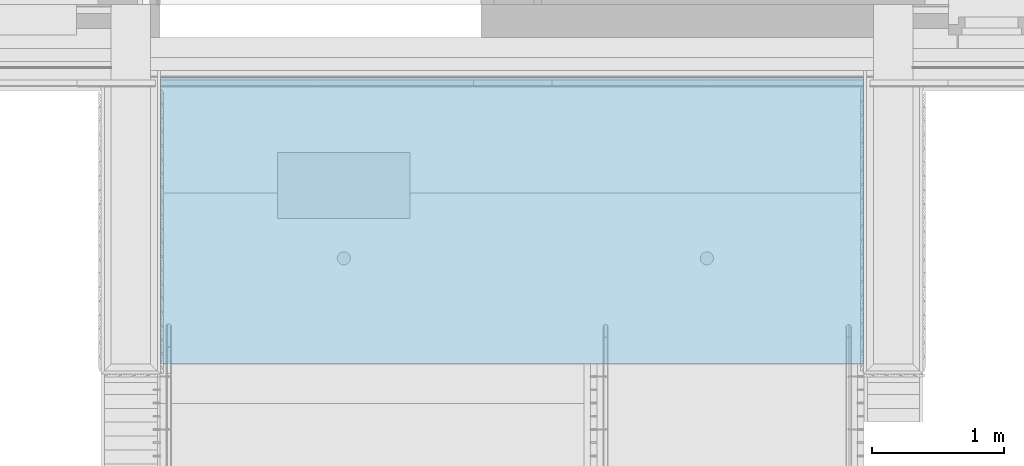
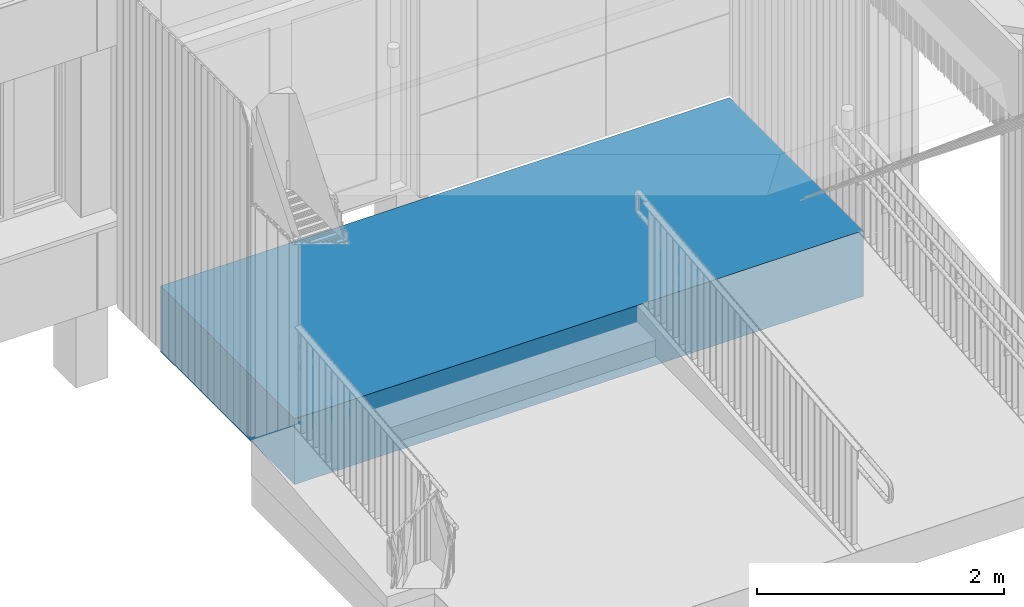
# One storey, part 91 of 418: 1 stair.
"""IFC2X3 building model written with IfcOpenShell, lengths in millimetres."""

from ifc_helpers import new_model, entity, si_unit, converted_unit, derived_unit, money_unit, direction, frame, origin_with_axes, place, context, subcontext, project, spatial, polyline, outline, extrude, boolean, faceted_brep, material, element, save


model = new_model("IFC2X3")

# Units and contexts
model_context = context("Model", 3, precision=0.01, world=origin_with_axes(), true_north=direction((0.0, 1.0)))
body_context = subcontext(model_context, "Body", "Model", "MODEL_VIEW")
ifc_project = project(units=[si_unit("LENGTHUNIT", "METRE", prefix="MILLI"), si_unit("AREAUNIT", "SQUARE_METRE"), si_unit("VOLUMEUNIT", "CUBIC_METRE"), converted_unit("PLANEANGLEUNIT", "DEGREE", entity("IfcPlaneAngleMeasure", 0.0174532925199), si_unit("PLANEANGLEUNIT", "RADIAN"), dimensions=[0, 0, 0, 0, 0, 0, 0]), si_unit("SOLIDANGLEUNIT", "STERADIAN"), money_unit("EUR"), converted_unit("TIMEUNIT", "Year", entity("IfcTimeMeasure", 31556926.0), si_unit("TIMEUNIT", "SECOND"), dimensions=[0, 0, 1, 0, 0, 0, 0]), si_unit("MASSUNIT", "GRAM", prefix="KILO"), si_unit("THERMODYNAMICTEMPERATUREUNIT", "DEGREE_CELSIUS"), si_unit("LUMINOUSINTENSITYUNIT", "LUMEN"), si_unit("ENERGYUNIT", "JOULE", prefix="MEGA"), derived_unit("THERMALCONDUCTANCEUNIT", [(si_unit("POWERUNIT", "WATT"), 1), (si_unit("LENGTHUNIT", "METRE"), -1), (si_unit("THERMODYNAMICTEMPERATUREUNIT", "KELVIN"), -1)]), derived_unit("SPECIFICHEATCAPACITYUNIT", [(si_unit("ENERGYUNIT", "JOULE"), 1), (si_unit("MASSUNIT", "GRAM", prefix="KILO"), -1), (si_unit("THERMODYNAMICTEMPERATUREUNIT", "KELVIN"), -1)]), derived_unit("MASSDENSITYUNIT", [(si_unit("MASSUNIT", "GRAM", prefix="KILO"), 1), (si_unit("VOLUMEUNIT", "CUBIC_METRE"), -1)])], contexts=[model_context])

# Site, building, storey
site_placement = place(None, origin_with_axes())
site = spatial("IfcSite", under=ifc_project, at=site_placement, Name="Paldiski mnt 245/1, Tallinn, Harjumaa", CompositionType="COMPLEX")
building_placement = place(site_placement, origin_with_axes())
building = spatial("IfcBuilding", under=site, at=building_placement, Name="RKAS Hoone üldnimetus (kasutust iseloomustav) -> IFC Project Manager -> SOLIBRI", CompositionType="ELEMENT")
storey_placement = place(building_placement, origin_with_axes())
storey = spatial("IfcBuildingStorey", under=building, at=storey_placement, Name="Esimene korrus", CompositionType="ELEMENT", Elevation=0.0)

# Stair
ifc_material = material(Name="KON-06_Raudbetoon - Konstruktsioon")
stair_placement = place(storey_placement, frame((-38794.9999919, -15230.0552573, -20.0), z_axis=(0.0, 0.0, 1.0), x_axis=(1.0, 0.0, 0.0)))
element("IfcStair", 1, at=stair_placement, inside=storey, material=ifc_material, Name="Välistrepp", ShapeType="NOTDEFINED", context=body_context, shape_type="CSG", body=[
    boolean("DIFFERENCE", extrude(outline(polyline([(0.0, 0.0), (-9.9175103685e-05, 2170.00579129), (-5320.00009808, 2170.00576056), (-5319.99999891, -3.07291294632e-05), (0.0, 0.0)])), frame((0.0, 0.0, -650.673864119), z_axis=(0.0, 0.0, 1.0), x_axis=(1.0, 0.0, 0.0)), (0.0, 0.0, 1.0), 650.673864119), faceted_brep([(-4433.12143578, 1099.97095625, 0.0), (-3433.12143578, 1099.97095625, 0.0), (-3433.12143578, 1599.97095625, 0.0), (-4433.12143578, 1599.97095625, 0.0), (-4433.12143578, 1099.97095625, -60.0), (-3433.12143578, 1099.97095625, -60.0), (-3433.12143578, 1599.97095625, -60.0), (-4433.12143578, 1599.97095625, -60.0), (-3988.12143578, 1354.78282891, -60.0), (-3988.12143578, 1349.97095625, -60.0), (-3988.12143578, 1345.15908359, -60.0), (-3986.45028385, 1335.6815337, -60.0), (-3983.15877812, 1326.63815936, -60.0), (-3980.7528333, 1322.47095625, -60.0), (-3978.34689056, 1318.30375314, -60.0), (-3972.16086131, 1310.93153072, -60.0), (-3964.78863888, 1304.74550147, -60.0), (-3960.62143578, 1302.33955873, -60.0), (-3956.45423267, 1299.93361391, -60.0), (-3947.41085832, 1296.64210817, -60.0), (-3937.93330844, 1294.97095625, -60.0), (-3933.12143578, 1294.97095625, -60.0), (-3928.30956311, 1294.97095625, -60.0), (-3918.83201323, 1296.64210817, -60.0), (-3909.78863888, 1299.93361391, -60.0), (-3905.62143578, 1302.33955873, -60.0), (-3901.45423267, 1304.74550147, -60.0), (-3894.08201025, 1310.93153072, -60.0), (-3887.89598099, 1318.30375314, -60.0), (-3885.49003825, 1322.47095625, -60.0), (-3883.08409343, 1326.63815936, -60.0), (-3879.7925877, 1335.6815337, -60.0), (-3878.12143578, 1345.15908359, -60.0), (-3878.12143578, 1349.97095625, -60.0), (-3878.12143578, 1354.78282891, -60.0), (-3879.7925877, 1364.2603788, -60.0), (-3883.08409343, 1373.30375314, -60.0), (-3885.49003825, 1377.47095625, -60.0), (-3887.89598099, 1381.63815936, -60.0), (-3894.08201025, 1389.01038178, -60.0), (-3901.45423267, 1395.19641103, -60.0), (-3905.62143578, 1397.60235377, -60.0), (-3909.78863888, 1400.0082986, -60.0), (-3918.83201323, 1403.29980433, -60.0), (-3928.30956311, 1404.97095625, -60.0), (-3933.12143578, 1404.97095625, -60.0), (-3937.93330844, 1404.97095625, -60.0), (-3947.41085832, 1403.29980433, -60.0), (-3956.45423267, 1400.0082986, -60.0), (-3960.62143578, 1397.60235377, -60.0), (-3964.78863888, 1395.19641103, -60.0), (-3972.16086131, 1389.01038178, -60.0), (-3978.34689056, 1381.63815936, -60.0), (-3980.7528333, 1377.47095625, -60.0), (-3983.15877812, 1373.30375314, -60.0), (-3986.45028385, 1364.2603788, -60.0), (-3988.12143578, 1354.78282891, -20.0), (-3988.12143578, 1349.97095625, -20.0), (-3988.12143578, 1349.97095625, -20.0), (-3988.12143578, 1345.15908359, -20.0), (-3986.45028385, 1335.6815337, -20.0), (-3983.15877812, 1326.63815936, -20.0), (-3980.7528333, 1322.47095625, -20.0), (-3980.7528333, 1322.47095625, -20.0), (-3978.34689056, 1318.30375314, -20.0), (-3972.16086131, 1310.93153072, -20.0), (-3964.78863888, 1304.74550147, -20.0), (-3960.62143578, 1302.33955873, -20.0), (-3960.62143578, 1302.33955873, -20.0), (-3956.45423267, 1299.93361391, -20.0), (-3947.41085832, 1296.64210817, -20.0), (-3937.93330844, 1294.97095625, -20.0), (-3933.12143578, 1294.97095625, -20.0), (-3933.12143578, 1294.97095625, -20.0), (-3928.30956311, 1294.97095625, -20.0), (-3918.83201323, 1296.64210817, -20.0), (-3909.78863888, 1299.93361391, -20.0), (-3905.62143578, 1302.33955873, -20.0), (-3905.62143578, 1302.33955873, -20.0), (-3901.45423267, 1304.74550147, -20.0), (-3894.08201025, 1310.93153072, -20.0), (-3887.89598099, 1318.30375314, -20.0), (-3885.49003825, 1322.47095625, -20.0), (-3885.49003825, 1322.47095625, -20.0), (-3883.08409343, 1326.63815936, -20.0), (-3879.7925877, 1335.6815337, -20.0), (-3878.12143578, 1345.15908359, -20.0), (-3878.12143578, 1349.97095625, -20.0), (-3878.12143578, 1349.97095625, -20.0), (-3878.12143578, 1354.78282891, -20.0), (-3879.7925877, 1364.2603788, -20.0), (-3883.08409343, 1373.30375314, -20.0), (-3885.49003825, 1377.47095625, -20.0), (-3885.49003825, 1377.47095625, -20.0), (-3887.89598099, 1381.63815936, -20.0), (-3894.08201025, 1389.01038178, -20.0), (-3901.45423267, 1395.19641103, -20.0), (-3905.62143578, 1397.60235377, -20.0), (-3905.62143578, 1397.60235377, -20.0), (-3909.78863888, 1400.0082986, -20.0), (-3918.83201323, 1403.29980433, -20.0), (-3928.30956311, 1404.97095625, -20.0), (-3933.12143578, 1404.97095625, -20.0), (-3933.12143578, 1404.97095625, -20.0), (-3937.93330844, 1404.97095625, -20.0), (-3947.41085832, 1403.29980433, -20.0), (-3956.45423267, 1400.0082986, -20.0), (-3960.62143578, 1397.60235377, -20.0), (-3960.62143578, 1397.60235377, -20.0), (-3964.78863888, 1395.19641103, -20.0), (-3972.16086131, 1389.01038178, -20.0), (-3978.34689056, 1381.63815936, -20.0), (-3980.7528333, 1377.47095625, -20.0), (-3980.7528333, 1377.47095625, -20.0), (-3983.15877812, 1373.30375314, -20.0), (-3986.45028385, 1364.2603788, -20.0), (-3986.24735697, 1364.20600411, -20.0), (-3986.24735697, 1364.20600411, -300.0), (-3988.12143578, 1349.97095625, -300.0), (-3986.24735697, 1335.73590839, -20.0), (-3986.24735697, 1335.73590839, -300.0), (-3980.7528333, 1322.47095625, -300.0), (-3972.0123091, 1311.08008292, -300.0), (-3972.0123091, 1311.08008292, -20.0), (-3960.62143578, 1302.33955873, -300.0), (-3947.35648364, 1296.84503506, -300.0), (-3947.35648364, 1296.84503506, -20.0), (-3933.12143578, 1294.97095625, -300.0), (-3918.88638791, 1296.84503506, -300.0), (-3918.88638791, 1296.84503506, -20.0), (-3905.62143578, 1302.33955873, -300.0), (-3894.23056245, 1311.08008292, -300.0), (-3894.23056245, 1311.08008292, -20.0), (-3885.49003825, 1322.47095625, -300.0), (-3879.99551458, 1335.73590839, -300.0), (-3879.99551458, 1335.73590839, -20.0), (-3878.12143578, 1349.97095625, -300.0), (-3879.99551458, 1364.20600411, -300.0), (-3879.99551458, 1364.20600411, -20.0), (-3885.49003825, 1377.47095625, -300.0), (-3894.23056245, 1388.86182958, -300.0), (-3894.23056245, 1388.86182958, -20.0), (-3905.62143578, 1397.60235377, -300.0), (-3918.88638791, 1403.09687744, -300.0), (-3918.88638791, 1403.09687744, -20.0), (-3933.12143578, 1404.97095625, -300.0), (-3947.35648364, 1403.09687744, -300.0), (-3947.35648364, 1403.09687744, -20.0), (-3960.62143578, 1397.60235377, -300.0), (-3972.0123091, 1388.86182958, -300.0), (-3972.0123091, 1388.86182958, -20.0), (-3980.7528333, 1377.47095625, -300.0), (-3981.41772643, 1362.91190826, -300.0), (-3983.12143578, 1349.97095625, -300.0), (-3981.41772643, 1337.03000424, -300.0), (-3976.4227061, 1324.97095625, -300.0), (-3968.47677442, 1314.61561761, -300.0), (-3958.12143578, 1306.66968593, -300.0), (-3946.06238778, 1301.6746656, -300.0), (-3933.12143578, 1299.97095625, -300.0), (-3920.18048377, 1301.6746656, -300.0), (-3908.12143578, 1306.66968593, -300.0), (-3897.76609713, 1314.61561761, -300.0), (-3889.82016545, 1324.97095625, -300.0), (-3884.82514512, 1337.03000424, -300.0), (-3883.12143578, 1349.97095625, -300.0), (-3884.82514512, 1362.91190826, -300.0), (-3889.82016545, 1374.97095625, -300.0), (-3897.76609713, 1385.32629489, -300.0), (-3908.12143578, 1393.27222658, -300.0), (-3920.18048377, 1398.2672469, -300.0), (-3933.12143578, 1399.97095625, -300.0), (-3946.06238778, 1398.2672469, -300.0), (-3958.12143578, 1393.27222658, -300.0), (-3968.47677442, 1385.32629489, -300.0), (-3976.4227061, 1374.97095625, -300.0), (-3981.41772643, 1362.91190826, -20.0), (-3983.12143578, 1349.97095625, -20.0), (-3981.41772643, 1337.03000424, -20.0), (-3976.4227061, 1324.97095625, -20.0), (-3968.47677442, 1314.61561761, -20.0), (-3958.12143578, 1306.66968593, -20.0), (-3946.06238778, 1301.6746656, -20.0), (-3933.12143578, 1299.97095625, -20.0), (-3920.18048377, 1301.6746656, -20.0), (-3908.12143578, 1306.66968593, -20.0), (-3897.76609713, 1314.61561761, -20.0), (-3889.82016545, 1324.97095625, -20.0), (-3884.82514512, 1337.03000424, -20.0), (-3883.12143578, 1349.97095625, -20.0), (-3884.82514512, 1362.91190826, -20.0), (-3889.82016545, 1374.97095625, -20.0), (-3897.76609713, 1385.32629489, -20.0), (-3908.12143578, 1393.27222658, -20.0), (-3920.18048377, 1398.2672469, -20.0), (-3933.12143578, 1399.97095625, -20.0), (-3946.06238778, 1398.2672469, -20.0), (-3958.12143578, 1393.27222658, -20.0), (-3968.47677442, 1385.32629489, -20.0), (-3976.4227061, 1374.97095625, -20.0)], [[[0, 1, 2, 3]], [[1, 0, 4, 5]], [[2, 1, 5, 6]], [[3, 2, 6, 7]], [[0, 3, 7, 4]], [[4, 7, 6, 5], [8, 9, 10, 11, 12, 13, 14, 15, 16, 17, 18, 19, 20, 21, 22, 23, 24, 25, 26, 27, 28, 29, 30, 31, 32, 33, 34, 35, 36, 37, 38, 39, 40, 41, 42, 43, 44, 45, 46, 47, 48, 49, 50, 51, 52, 53, 54, 55]], [[9, 8, 56, 57]], [[10, 9, 58, 59]], [[11, 10, 59, 60]], [[12, 11, 60, 61]], [[13, 12, 61, 62]], [[14, 13, 63, 64]], [[15, 14, 64, 65]], [[16, 15, 65, 66]], [[17, 16, 66, 67]], [[18, 17, 68, 69]], [[19, 18, 69, 70]], [[20, 19, 70, 71]], [[21, 20, 71, 72]], [[22, 21, 73, 74]], [[23, 22, 74, 75]], [[24, 23, 75, 76]], [[25, 24, 76, 77]], [[26, 25, 78, 79]], [[27, 26, 79, 80]], [[28, 27, 80, 81]], [[29, 28, 81, 82]], [[30, 29, 83, 84]], [[31, 30, 84, 85]], [[32, 31, 85, 86]], [[33, 32, 86, 87]], [[34, 33, 88, 89]], [[35, 34, 89, 90]], [[36, 35, 90, 91]], [[37, 36, 91, 92]], [[38, 37, 93, 94]], [[39, 38, 94, 95]], [[40, 39, 95, 96]], [[41, 40, 96, 97]], [[42, 41, 98, 99]], [[43, 42, 99, 100]], [[44, 43, 100, 101]], [[45, 44, 101, 102]], [[46, 45, 103, 104]], [[47, 46, 104, 105]], [[48, 47, 105, 106]], [[49, 48, 106, 107]], [[50, 49, 108, 109]], [[51, 50, 109, 110]], [[52, 51, 110, 111]], [[53, 52, 111, 112]], [[54, 53, 113, 114]], [[55, 54, 114, 115]], [[8, 55, 115, 56]], [[57, 56, 115, 114, 113, 116]], [[57, 116, 117, 118, 9]], [[119, 58, 9, 118, 120]], [[60, 59, 58, 119, 62, 61]], [[62, 119, 120, 121, 13]], [[121, 122, 123, 63, 13]], [[63, 123, 67, 66, 65, 64]], [[122, 124, 17, 67, 123]], [[124, 125, 126, 68, 17]], [[69, 68, 126, 72, 71, 70]], [[125, 127, 21, 72, 126]], [[127, 128, 129, 73, 21]], [[73, 129, 77, 76, 75, 74]], [[128, 130, 25, 77, 129]], [[130, 131, 132, 78, 25]], [[78, 132, 82, 81, 80, 79]], [[131, 133, 29, 82, 132]], [[133, 134, 135, 83, 29]], [[83, 135, 87, 86, 85, 84]], [[134, 136, 33, 87, 135]], [[136, 137, 138, 88, 33]], [[138, 92, 91, 90, 89, 88]], [[137, 139, 37, 92, 138]], [[139, 140, 141, 93, 37]], [[97, 96, 95, 94, 93, 141]], [[140, 142, 41, 97, 141]], [[142, 143, 144, 98, 41]], [[102, 101, 100, 99, 98, 144]], [[143, 145, 45, 102, 144]], [[145, 146, 147, 103, 45]], [[147, 107, 106, 105, 104, 103]], [[146, 148, 49, 107, 147]], [[148, 149, 150, 108, 49]], [[112, 111, 110, 109, 108, 150]], [[149, 151, 53, 112, 150]], [[116, 113, 53, 151, 117]], [[120, 118, 117, 151, 149, 148, 146, 145, 143, 142, 140, 139, 137, 136, 134, 133, 131, 130, 128, 127, 125, 124, 122, 121], [152, 153, 154, 155, 156, 157, 158, 159, 160, 161, 162, 163, 164, 165, 166, 167, 168, 169, 170, 171, 172, 173, 174, 175]], [[153, 152, 176, 177]], [[154, 153, 177, 178]], [[155, 154, 178, 179]], [[156, 155, 179, 180]], [[157, 156, 180, 181]], [[158, 157, 181, 182]], [[159, 158, 182, 183]], [[160, 159, 183, 184]], [[161, 160, 184, 185]], [[162, 161, 185, 186]], [[163, 162, 186, 187]], [[164, 163, 187, 188]], [[165, 164, 188, 189]], [[166, 165, 189, 190]], [[167, 166, 190, 191]], [[168, 167, 191, 192]], [[169, 168, 192, 193]], [[170, 169, 193, 194]], [[171, 170, 194, 195]], [[172, 171, 195, 196]], [[173, 172, 196, 197]], [[174, 173, 197, 198]], [[175, 174, 198, 199]], [[152, 175, 199, 176]], [[177, 176, 199, 198, 197, 196, 195, 194, 193, 192, 191, 190, 189, 188, 187, 186, 185, 184, 183, 182, 181, 180, 179, 178]]])),
])

save(model, "model.ifc")
